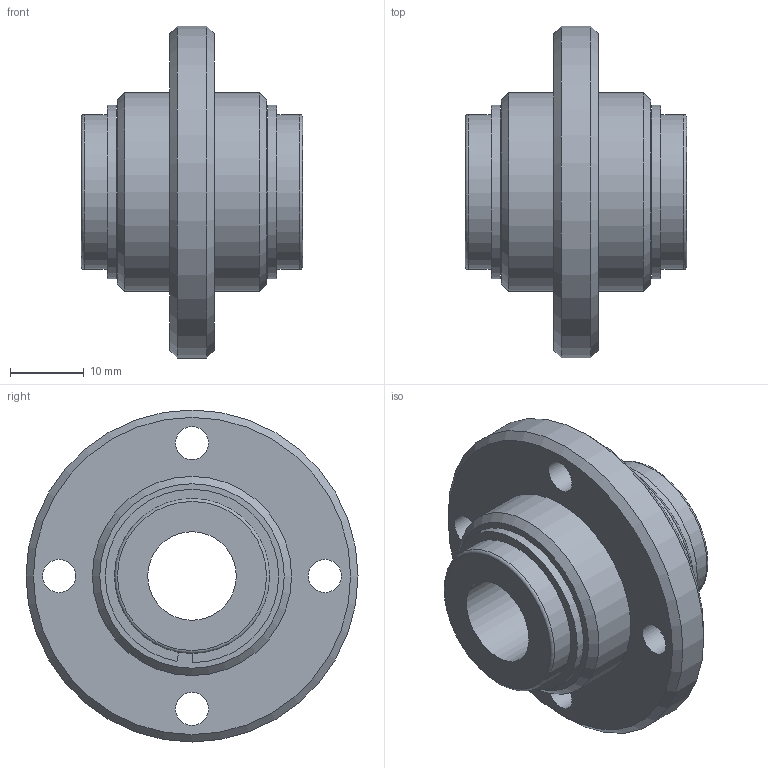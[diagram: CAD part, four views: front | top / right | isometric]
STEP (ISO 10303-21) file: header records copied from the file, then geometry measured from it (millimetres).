
FILE_DESCRIPTION(('STEP AP203'),'1');
FILE_NAME('//192.168.1.1/share/s-4 技術開発/s-4-4_CAD/s-4-4-3_見直し済み/008修正済み/PNCD/PNCD_TOP/PNCD-12VUU.step','2022-02-07T00:29:12',(' '),(' '),'Spatial InterOp 3D',' ',' ');
FILE_SCHEMA(('CONFIG_CONTROL_DESIGN'));
Length unit declared in the file: millimetre
Products named in the file (4): 1; 2; 3; 4
Bounding box: 30 x 45 x 45 mm (x, y, z)
Volume: 17258.2 mm3; surface area: 10281.9 mm2
Topology: 4 solids, 4 shells, 42 faces, 83 edges, 55 vertices
Faces by surface type: cylinder 18, plane 18, cone 4, torus 2
Full cylindrical faces by diameter (mm): 4.5 x4, 12 x1, 20 x2, 21 x4, 27 x2, 45 x1
Entity records: 1156 total; most frequent: DIRECTION 192, CARTESIAN_POINT 154, ORIENTED_EDGE 116, AXIS2_PLACEMENT_3D 88, EDGE_LOOP 80, FACE_OUTER_BOUND 58, EDGE_CURVE 58, VERTEX_POINT 50
